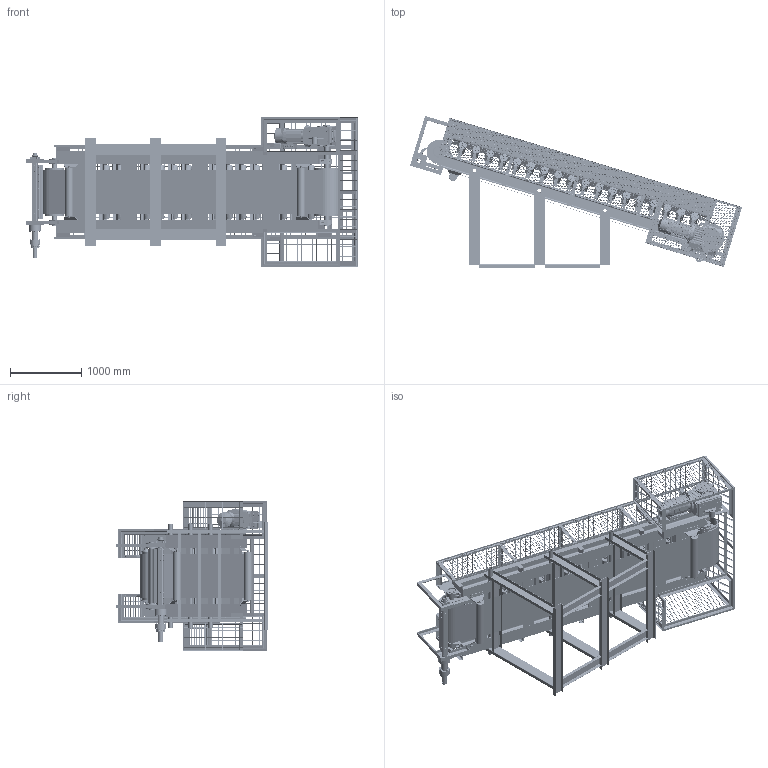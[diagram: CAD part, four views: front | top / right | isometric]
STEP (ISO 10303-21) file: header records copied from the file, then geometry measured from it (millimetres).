
FILE_DESCRIPTION(/* description */ (''),/* implementation_level */ '2;1');
FILE_NAME(/* name */ 'beltconveyor_a074_w600_l4300.stp',/* time_stamp */ '2025-01-12T18:07:38+08:00',/* author */ (''),/* organization */ (''),/* preprocessor_version */ 'ST-DEVELOPER v16.7',/* originating_system */ 'SIEMENS PLM Software NX 12.0',/* authorisation */ '');
FILE_SCHEMA (('AUTOMOTIVE_DESIGN { 1 0 10303 214 3 1 1 1 }'));
Products named in the file (801): Clevis Pin  with Cotter Pin-27; Clevis Pin  with Cotter Pin-24; Clevis Pin  with Cotter Pin-7; Clevis Pin  with Cotter Pin-14; Clevis Pin  with Cotter Pin177909; Clevis Pin  with Cotter Pin-25; Clevis Pin  with Cotter Pin-8; Clevis Pin  with Cotter Pin-26; Clevis Pin  with Cotter Pin-30; Clevis Pin  with Cotter Pin-12; Clevis Pin  with Cotter Pin-13; Clevis Pin  with Cotter Pin-31; Clevis Pin  with Cotter Pin-29; Clevis Pin  with Cotter Pin-4; Clevis Pin  with Cotter Pin-2; Clevis Pin  with Cotter Pin-21; Clevis Pin  with Cotter Pin-17; Clevis Pin  with Cotter Pin-15; Clevis Pin  with Cotter Pin-11; Clevis Pin  with Cotter Pin-5; Clevis Pin  with Cotter Pin-22; Clevis Pin  with Cotter Pin-28; Clevis Pin  with Cotter Pin-6; Clevis Pin  with Cotter Pin-20; Clevis Pin  with Cotter Pin-9; Clevis Pin  with Cotter Pin-23; Clevis Pin  with Cotter Pin-10; Clevis Pin  with Cotter Pin-1; Clevis Pin  with Cotter Pin-19; Clevis Pin  with Cotter Pin-3; Clevis Pin  with Cotter Pin-16; Clevis Pin  with Cotter Pin-18; mcl-65-f251792; mcl-65-f-1; 200-AX-ITEM-028 - 15-15; 200-AX-ITEM-028 - 15-2; 200-AX-ITEM-028 - 15-12; 200-AX-ITEM-028 - 15-11; 200-AX-ITEM-028 - 15-9; 200-AX-ITEM-028 - 15-6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
Assembly tree (1924 placements, depth 3):
  beltconveyor_a074_w600_l4300
    200-AX-ITEM-009  x36
    200-AX-ITEM-004  x224
    200-AX-ITEM-003  x112
    radial ball bearing_68_din_DIN 625 - 6204 - 10,SI,NC,10_68  x112
    200-AX-ITEM-008  x36
    flat washer narrow_am_B18.22M - Plain washer, 8 mm, narrow  x8
    200-AX-ITEM-001  x54
    circlip for bores heavy_din_Circlip DIN 472 - 50 x 2.5  x224
    200-AX-ITEM-044  x5
      200-AX-ITEM-044-1
      200-AX-ITEM-044171055
    200-AX-ITEM-010  x36
    200-AX-ITEM-005  x112
    200-AX-ITEM-014
    200-AX-ITEM-006  x36
    shock ring
    heavy hex nut_ai_HHNUT 0.2500-20-D-N  x8
    200-AX-ITEM-028 - 18  x2
      200-AX-ITEM-028 - 18-22
      200-AX-ITEM-028 - 18-41
      200-AX-ITEM-028 - 18-51
      200-AX-ITEM-028 - 18-42
      200-AX-ITEM-028 - 18-54
      200-AX-ITEM-028 - 18-16
      200-AX-ITEM-028 - 18-58
      200-AX-ITEM-028 - 18-25
      200-AX-ITEM-028 - 18-55
      200-AX-ITEM-028 - 18-9
      200-AX-ITEM-028 - 18-19
      200-AX-ITEM-028 - 18-12
      200-AX-ITEM-028 - 18-49
      200-AX-ITEM-028 - 18-7
      200-AX-ITEM-028 - 18-3
      200-AX-ITEM-028 - 18-57
      200-AX-ITEM-028 - 18-15
      200-AX-ITEM-028 - 18-44
      200-AX-ITEM-028 - 18-6
      200-AX-ITEM-028 - 18-59
      200-AX-ITEM-028 - 18-8
      200-AX-ITEM-028 - 18-18
      200-AX-ITEM-028 - 18-27
      200-AX-ITEM-028 - 18-34
      200-AX-ITEM-028 - 18-38
      200-AX-ITEM-028 - 18-45
      200-AX-ITEM-028 - 18-47
      200-AX-ITEM-028 - 18-5
      200-AX-ITEM-028 - 18130327
      200-AX-ITEM-028 - 18-62
      200-AX-ITEM-028 - 18-11
      200-AX-ITEM-028 - 18-26
      200-AX-ITEM-028 - 18-1
      200-AX-ITEM-028 - 18-61
      200-AX-ITEM-028 - 18-56
      200-AX-ITEM-028 - 18-14
      200-AX-ITEM-028 - 18-13
      200-AX-ITEM-028 - 18-4
      200-AX-ITEM-028 - 18-46
      200-AX-ITEM-028 - 18-17
      200-AX-ITEM-028 - 18-29
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Bounding box: 4651.8 x 2130.99 x 2092 mm (x, y, z)
Volume: 349126906.1 mm3; surface area: 97004731.8 mm2
Topology: 2734 solids, 2734 shells, 33219 faces, 75842 edges, 49373 vertices
Faces by surface type: cylinder 14867, plane 13859, bspline 3702, extrusion 369, cone 308, torus 60, sphere 54
Entity records: 257307 total; most frequent: CARTESIAN_POINT 68900, DIRECTION 35390, ORIENTED_EDGE 32228, EDGE_CURVE 16114, AXIS2_PLACEMENT_3D 13215, VERTEX_POINT 10704, VECTOR 8960, LINE 8591
